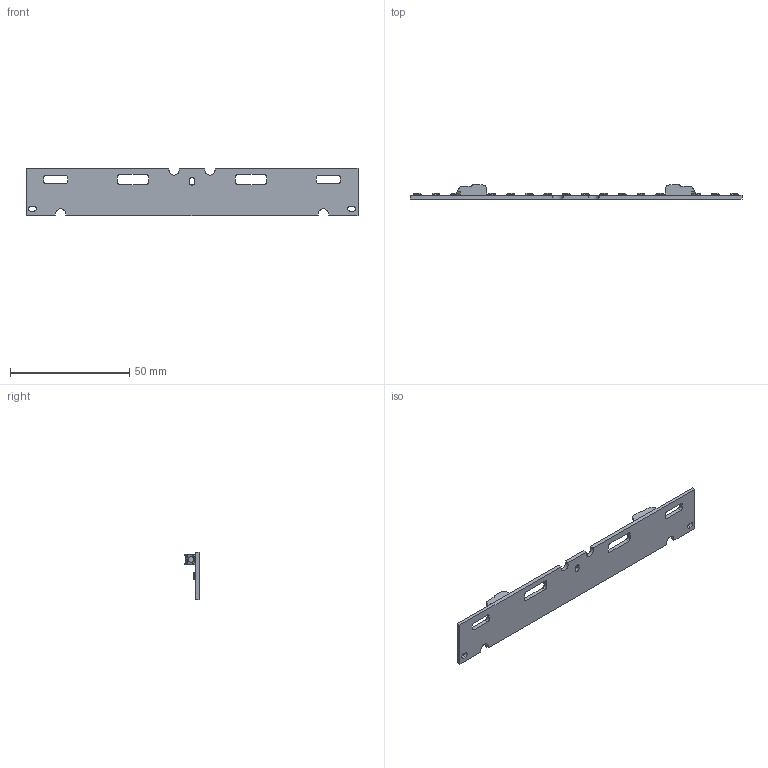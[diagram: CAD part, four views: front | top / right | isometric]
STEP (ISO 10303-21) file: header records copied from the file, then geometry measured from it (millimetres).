
FILE_DESCRIPTION((''),'2;1');
FILE_NAME('ASM000215_ASM','2020-10-01T08:38:20',('msavic'),(''),'CREO PARAMETRIC BY PTC INC, 2016510','CREO PARAMETRIC BY PTC INC, 2016510','');
FILE_SCHEMA(('AUTOMOTIVE_DESIGN { 1 0 10303 214 1 1 1 1 }'));
Products named in the file (12): BAZA_WU-M-656; PRT0001; VSO-LOGO-5MM_3; VSO-LOGO-5MM001_2_1; CE-ZEICHEN-6MM_2; CE-ZEICHEN-6MM001_2; BUILT-IN_LED_MODULE-5MM004_2; BUILT-IN_LED_MODULE-5MM003_2; BUILT-IN_LED_MODULE-5MM002_2; BUILT-IN_LED_MODULE-5MM001_2; 2060-452_1_2_3_4; ASM000215_ASM
Assembly tree (30 placements, depth 2):
  ASM000215_ASM
    BAZA_WU-M-656
    PRT0001  x18
    VSO-LOGO-5MM_3
    VSO-LOGO-5MM001_2_1
    CE-ZEICHEN-6MM_2
    CE-ZEICHEN-6MM001_2
    BUILT-IN_LED_MODULE-5MM004_2
    BUILT-IN_LED_MODULE-5MM003_2
    BUILT-IN_LED_MODULE-5MM002_2
    BUILT-IN_LED_MODULE-5MM001_2  x2
    2060-452_1_2_3_4  x2
Bounding box: 139 x 5.95 x 20 mm (x, y, z)
Volume: 4466.6 mm3; surface area: 7112.5 mm2
Topology: 30 solids, 30 shells, 5340 faces, 15081 edges, 9994 vertices
Faces by surface type: plane 4267, cylinder 989, bspline 72, extrusion 10, sphere 2
Entity records: 120681 total; most frequent: CARTESIAN_POINT 17992, ORIENTED_EDGE 17228, DIRECTION 15113, EDGE_CURVE 8614, VECTOR 8287, LINE 8277, VERTEX_POINT 5740, AXIS2_PLACEMENT_3D 3395
